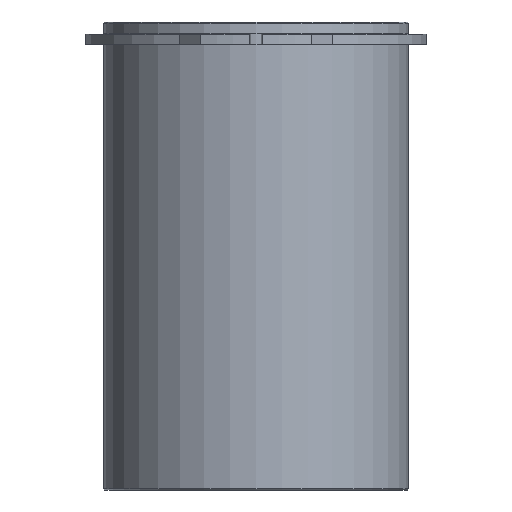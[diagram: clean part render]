
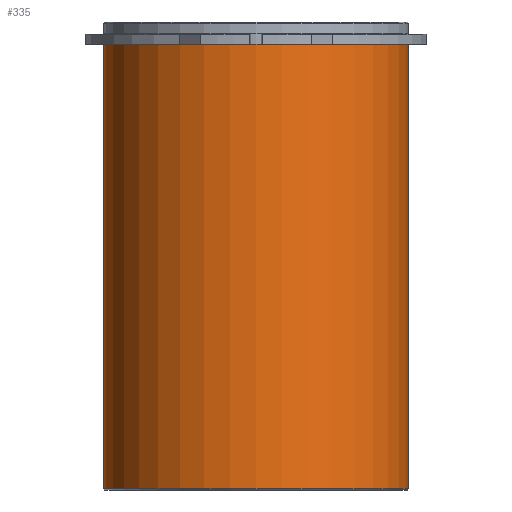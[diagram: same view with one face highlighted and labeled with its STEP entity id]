
A CAD part, front view. The second image highlights one B-rep face of the part: STEP entity #335.
In plain terms, the highlighted cylindrical face has radius 45.625 mm (diameter 91.25 mm), a partial arc.
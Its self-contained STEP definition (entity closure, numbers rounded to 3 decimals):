
#294=CARTESIAN_POINT('',(0.0,0.,-66.5));
#295=DIRECTION('',(0.0,0.,1.0));
#296=DIRECTION('',(1.0,0.0,0.0));
#297=AXIS2_PLACEMENT_3D('',#294,#295,#296);
#298=CYLINDRICAL_SURFACE('',#297,45.625);
#299=CARTESIAN_POINT('',(45.625,0.0,0.0));
#300=VERTEX_POINT('',#299);
#301=CARTESIAN_POINT('',(45.625,0.,-133.0));
#302=VERTEX_POINT('',#301);
#303=CARTESIAN_POINT('',(45.625,0.0,0.0));
#304=DIRECTION('',(0.0,0.0,-1.0));
#305=VECTOR('',#304,133.0);
#306=LINE('',#303,#305);
#307=EDGE_CURVE('',#300,#302,#306,.T.);
#308=ORIENTED_EDGE('',*,*,#307,.F.);
#309=CARTESIAN_POINT('',(-45.625,0.,0.0));
#310=VERTEX_POINT('',#309);
#311=CARTESIAN_POINT('',(0.0,0.0,0.0));
#312=DIRECTION('',(0.0,0.0,1.0));
#313=DIRECTION('',(1.0,0.0,0.0));
#314=AXIS2_PLACEMENT_3D('',#311,#312,#313);
#315=CIRCLE('',#314,45.625);
#316=EDGE_CURVE('',#310,#300,#315,.T.);
#317=ORIENTED_EDGE('',*,*,#316,.F.);
#318=CARTESIAN_POINT('',(-45.625,0.,-133.));
#319=VERTEX_POINT('',#318);
#320=CARTESIAN_POINT('',(-45.625,0.,0.0));
#321=DIRECTION('',(0.0,0.0,-1.0));
#322=VECTOR('',#321,133.);
#323=LINE('',#320,#322);
#324=EDGE_CURVE('',#310,#319,#323,.T.);
#325=ORIENTED_EDGE('',*,*,#324,.T.);
#326=CARTESIAN_POINT('',(0.0,0.,-133.0));
#327=DIRECTION('',(0.0,0.0,1.0));
#328=DIRECTION('',(1.0,0.0,0.0));
#329=AXIS2_PLACEMENT_3D('',#326,#327,#328);
#330=CIRCLE('',#329,45.625);
#331=EDGE_CURVE('',#319,#302,#330,.T.);
#332=ORIENTED_EDGE('',*,*,#331,.T.);
#333=EDGE_LOOP('',(#308,#317,#325,#332));
#334=FACE_OUTER_BOUND('',#333,.T.);
#335=ADVANCED_FACE('',(#334),#298,.T.);
